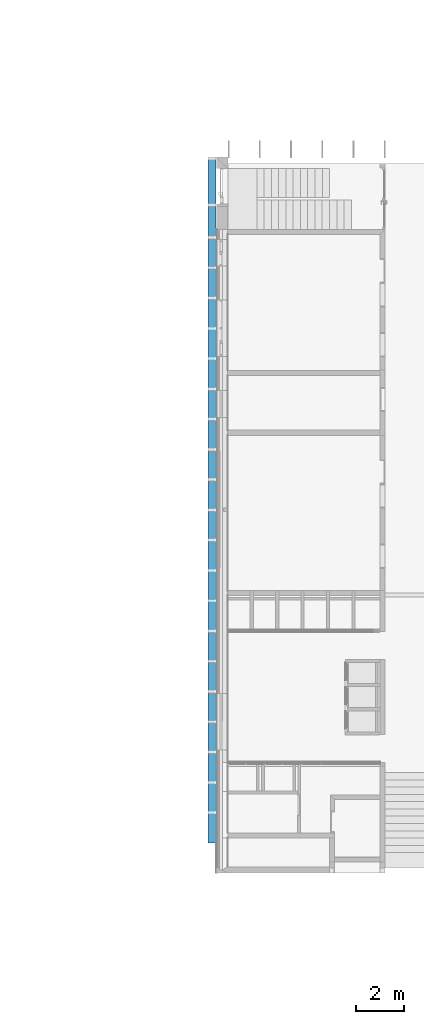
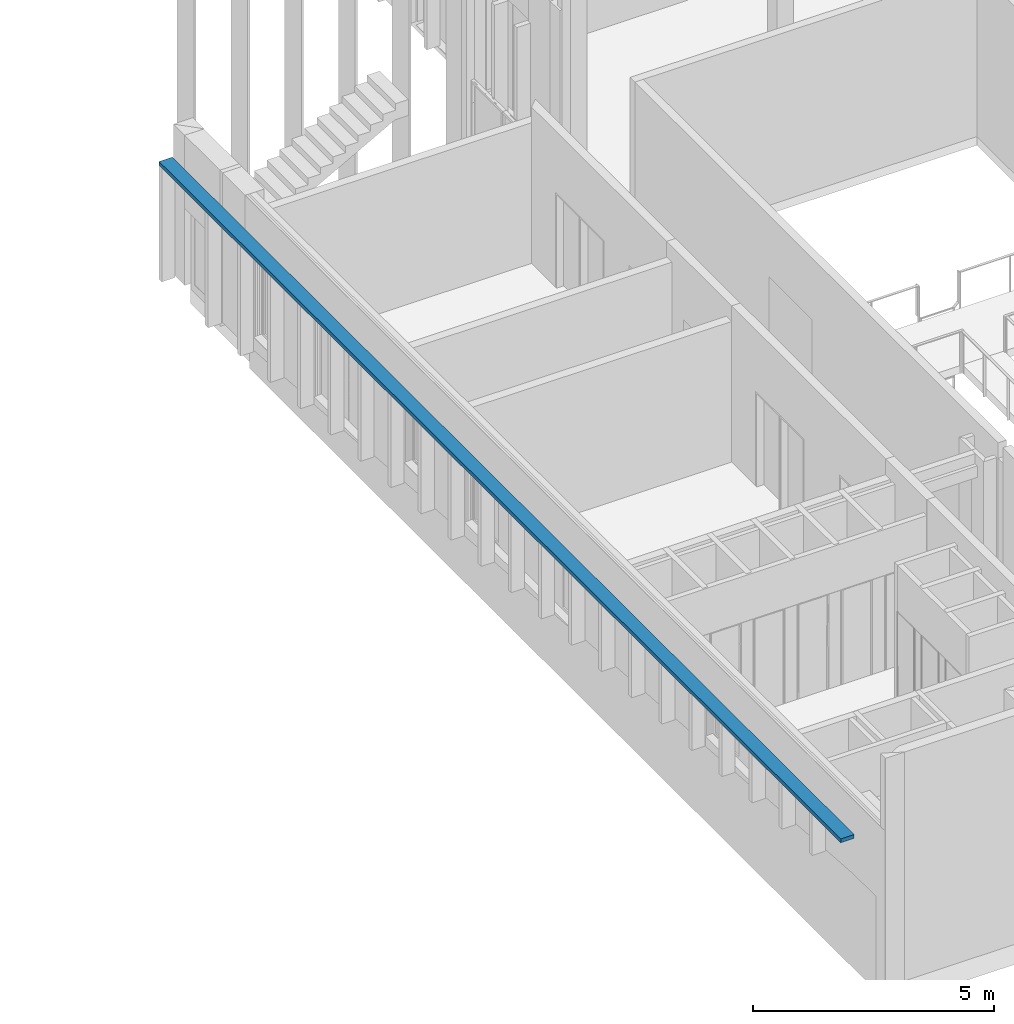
# One storey, part 3 of 89: 1 beam.
"""IFC2X3 building model written with IfcOpenShell, lengths in millimetres."""

from ifc_helpers import new_model, entity, si_unit, converted_unit, derived_unit, money_unit, direction, frame, frame_2d, origin_with_axes, place, context, subcontext, project, spatial, rectangle, extrude, material, type_object, element, save


model = new_model("IFC2X3")

# Units and contexts
model_context = context("Model", 3, precision=0.01, world=origin_with_axes(), true_north=direction((0.0, 1.0)))
body_context = subcontext(model_context, "Body", "Model", "MODEL_VIEW")
ifc_project = project(units=[si_unit("LENGTHUNIT", "METRE", prefix="MILLI"), si_unit("AREAUNIT", "SQUARE_METRE"), si_unit("VOLUMEUNIT", "CUBIC_METRE"), converted_unit("PLANEANGLEUNIT", "DEGREE", entity("IfcPlaneAngleMeasure", 0.0174532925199), si_unit("PLANEANGLEUNIT", "RADIAN"), dimensions=[0, 0, 0, 0, 0, 0, 0]), si_unit("SOLIDANGLEUNIT", "STERADIAN"), money_unit("EUR"), converted_unit("TIMEUNIT", "Year", entity("IfcTimeMeasure", 31556926.0), si_unit("TIMEUNIT", "SECOND"), dimensions=[0, 0, 1, 0, 0, 0, 0]), si_unit("MASSUNIT", "GRAM", prefix="KILO"), si_unit("THERMODYNAMICTEMPERATUREUNIT", "DEGREE_CELSIUS"), si_unit("LUMINOUSINTENSITYUNIT", "LUMEN"), si_unit("ENERGYUNIT", "JOULE", prefix="MEGA"), derived_unit("THERMALCONDUCTANCEUNIT", [(si_unit("POWERUNIT", "WATT"), 1), (si_unit("LENGTHUNIT", "METRE"), -1), (si_unit("THERMODYNAMICTEMPERATUREUNIT", "KELVIN"), -1)]), derived_unit("SPECIFICHEATCAPACITYUNIT", [(si_unit("ENERGYUNIT", "JOULE"), 1), (si_unit("MASSUNIT", "GRAM", prefix="KILO"), -1), (si_unit("THERMODYNAMICTEMPERATUREUNIT", "KELVIN"), -1)]), derived_unit("MASSDENSITYUNIT", [(si_unit("MASSUNIT", "GRAM", prefix="KILO"), 1), (si_unit("VOLUMEUNIT", "CUBIC_METRE"), -1)])], contexts=[model_context])

# Site, building, storey
site_placement = place(None, origin_with_axes())
site = spatial("IfcSite", under=ifc_project, at=site_placement, Name="Puškini 31, Narva", CompositionType="ELEMENT")
building_placement = place(site_placement, origin_with_axes())
building = spatial("IfcBuilding", under=site, at=building_placement, Name="Narva Riigigümnaasium", CompositionType="ELEMENT")
storey_placement = place(building_placement, frame((0.0, 0.0, -3300.0), z_axis=(0.0, 0.0, 1.0), x_axis=(1.0, 0.0, 0.0)))
storey = spatial("IfcBuildingStorey", under=building, at=storey_placement, Name="1.korrus -3.3", CompositionType="ELEMENT", Elevation=-3300.0)

# Beam
ifc_material = material(Name="Puitroov")
beam_type = type_object("IfcBeamType", Name="Puitroov 320 x 100", PredefinedType="BEAM")
beam_placement = place(storey_placement, frame((27757.0401775, 224257.979425, 3130.0), z_axis=(0.0, 0.0, 1.0), x_axis=(-1.0, 0.0, 0.0)))
element("IfcBeam", 1, at=beam_placement, inside=storey, type_object=beam_type, material=ifc_material, Name="TALA", ObjectType="BEAM", context=body_context, shape_type="SweptSolid", body=[
    extrude(rectangle(XDim=100.0, YDim=320.0, at=frame_2d((-50.0, 0.0), x_axis=(1.0, 0.0))), frame((0.0, 0.0, 0.0), z_axis=(0.0, 1.0, 0.0), x_axis=(0.0, 0.0, 1.0)), (0.0, 0.0, 1.0), 28318.0088061),
])

save(model, "model.ifc")
